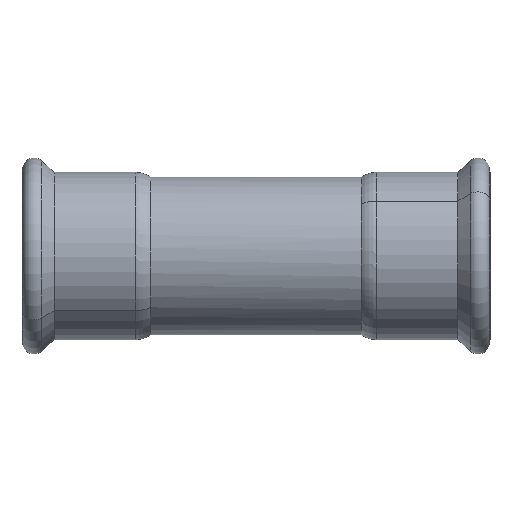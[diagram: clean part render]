
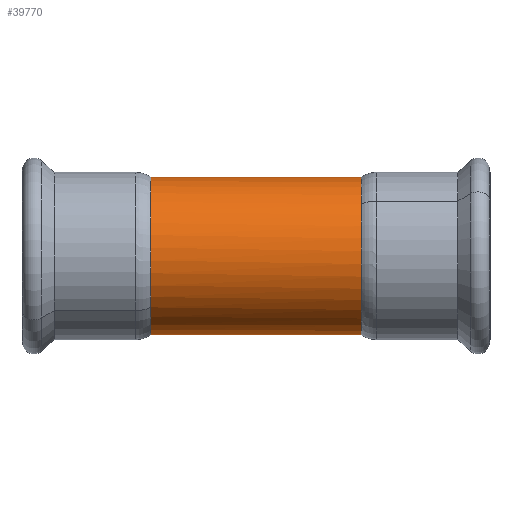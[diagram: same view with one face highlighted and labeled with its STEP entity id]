
A CAD part, top view. The second image highlights one B-rep face of the part: STEP entity #39770.
In plain terms, the highlighted cylindrical face has radius 33.35 mm (diameter 66.7 mm), a partial arc.
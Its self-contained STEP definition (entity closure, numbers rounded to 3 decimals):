
#14730=CARTESIAN_POINT('',(3.4,0.,0.));
#14740=DIRECTION('',(1.,0.,0.));
#14750=DIRECTION('',(0.,-0.654,
-0.757));
#14760=AXIS2_PLACEMENT_3D('',#14730,#14740,#14750);
#14770=CIRCLE('',#14760,33.35);
#14780=CARTESIAN_POINT('',(3.4,-33.35,0.)
);
#14790=VERTEX_POINT('',#14780);
#14820=CARTESIAN_POINT('',(3.4,21.804,
25.235));
#14830=VERTEX_POINT('',#14820);
#14840=EDGE_CURVE('',#14830,#14790,#14770,.T.);
#23740=CARTESIAN_POINT('',(-85.6,0.,0.));
#23750=DIRECTION('',(-1.,0.,0.));
#23760=DIRECTION('',(0.,0.654,
-0.757));
#23770=AXIS2_PLACEMENT_3D('',#23740,#23750,#23760);
#23780=CIRCLE('',#23770,33.35);
#23790=CARTESIAN_POINT('',(-85.6,33.35,0.));
#23800=VERTEX_POINT('',#23790);
#23830=CARTESIAN_POINT('',(-85.6,-21.804,25.235));
#23840=VERTEX_POINT('',#23830);
#23850=EDGE_CURVE('',#23840,#23800,#23780,.T.);
#39030=CARTESIAN_POINT('',(3.4,33.35,0.));
#39040=VERTEX_POINT('',#39030);
#39050=EDGE_CURVE('',#39040,#14830,#14770,.T.);
#39220=CARTESIAN_POINT('',(-85.6,-33.35,0.));
#39230=VERTEX_POINT('',#39220);
#39240=EDGE_CURVE('',#39230,#23840,#23780,.T.);
#39540=CARTESIAN_POINT('',(5.,0.,0.));
#39550=DIRECTION('',(1.,0.,0.));
#39560=DIRECTION('',(0.,1.,0.));
#39570=AXIS2_PLACEMENT_3D('',#39540,#39550,#39560);
#39580=CYLINDRICAL_SURFACE('',#39570,33.35);
#39590=CARTESIAN_POINT('',(5.,33.35,0.));
#39600=DIRECTION('',(1.,0.,0.));
#39610=VECTOR('',#39600,1.);
#39620=LINE('',#39590,#39610);
#39630=EDGE_CURVE('',#23800,#39040,#39620,.T.);
#39640=ORIENTED_EDGE('',*,*,#39630,.F.);
#39650=ORIENTED_EDGE('',*,*,#39050,.F.);
#39660=ORIENTED_EDGE('',*,*,#14840,.F.);
#39670=CARTESIAN_POINT('',(5.,-33.35,0.));
#39680=DIRECTION('',(1.,0.,0.));
#39690=VECTOR('',#39680,1.);
#39700=LINE('',#39670,#39690);
#39710=EDGE_CURVE('',#39230,#14790,#39700,.T.);
#39720=ORIENTED_EDGE('',*,*,#39710,.T.);
#39730=ORIENTED_EDGE('',*,*,#39240,.F.);
#39740=ORIENTED_EDGE('',*,*,#23850,.F.);
#39750=EDGE_LOOP('',(#39740,#39730,#39720,#39660,#39650,#39640));
#39760=FACE_OUTER_BOUND('',#39750,.T.);
#39770=ADVANCED_FACE('',(#39760),#39580,.T.);
